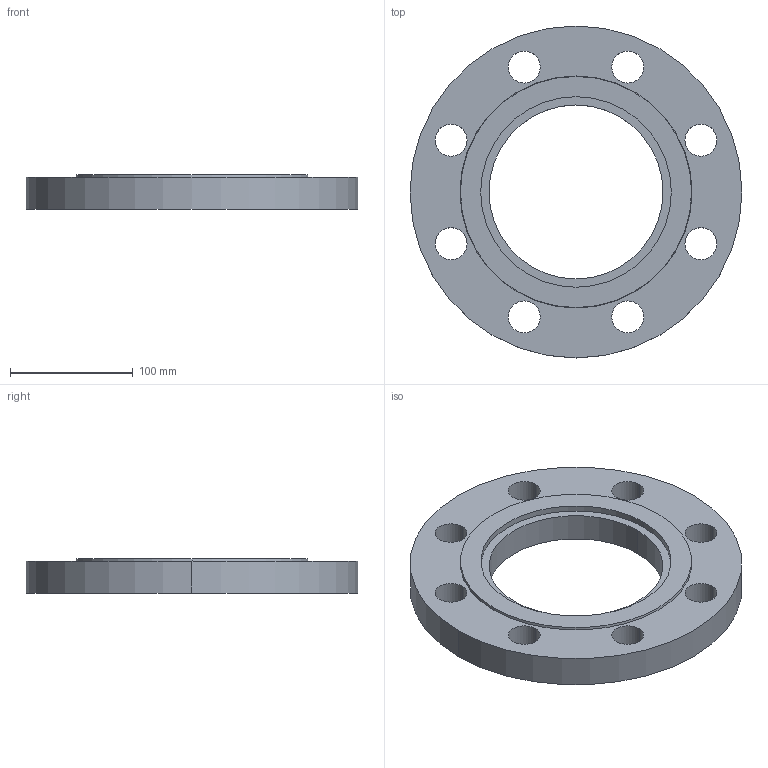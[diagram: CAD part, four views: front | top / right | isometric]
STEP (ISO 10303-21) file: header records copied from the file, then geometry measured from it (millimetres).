
FILE_DESCRIPTION (( 'STEP AP214' ), '1' );
FILE_NAME ('PN40 DN125 Type 01 - Type G Face.STEP', '2019-01-02T19:37:41', ( '' ), ( '' ), 'SwSTEP 2.0', 'SolidWorks 2019', '' );
FILE_SCHEMA (( 'AUTOMOTIVE_DESIGN' ));
Length unit declared in the file: millimetre
Products named in the file (1): PN40 DN125 Type 01 - Type G Face
Bounding box: 270 x 270 x 28 mm (x, y, z)
Volume: 977906.1 mm3; surface area: 127261.1 mm2
Topology: 1 solids, 1 shells, 28 faces, 72 edges, 48 vertices
Faces by surface type: cylinder 22, plane 4, cone 2
Entity records: 954 total; most frequent: DIRECTION 178, CARTESIAN_POINT 149, ORIENTED_EDGE 144, AXIS2_PLACEMENT_3D 77, EDGE_CURVE 72, EDGE_LOOP 48, CIRCLE 48, VERTEX_POINT 48
